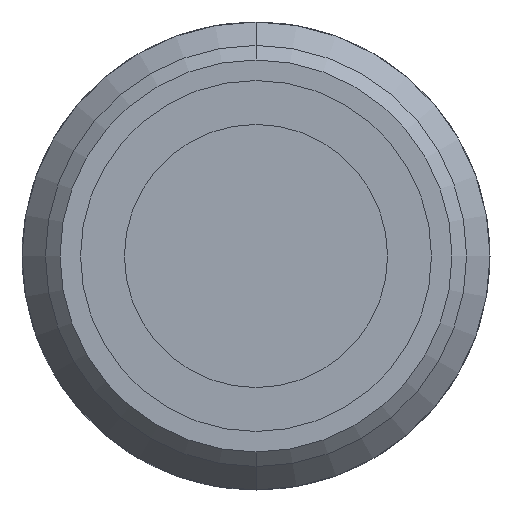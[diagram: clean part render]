
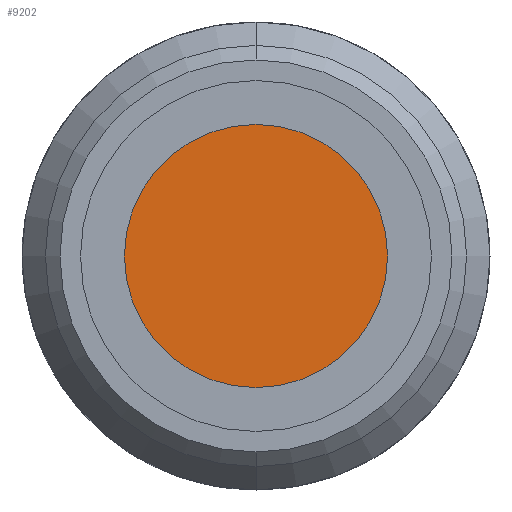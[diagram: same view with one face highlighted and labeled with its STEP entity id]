
A CAD part, front view. The second image highlights one B-rep face of the part: STEP entity #9202.
In plain terms, the highlighted planar face has unit normal (0, -1, 0).
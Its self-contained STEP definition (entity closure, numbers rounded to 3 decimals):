
#137 = EDGE_CURVE ( 'NONE', #7698, #8837, #6682, .T. ) ;
#662 = ORIENTED_EDGE ( 'NONE', *, *, #137, .T. ) ;
#930 = DIRECTION ( 'NONE',  ( 0., 1., 0. ) ) ;
#1772 = DIRECTION ( 'NONE',  ( 0., -1., 0. ) ) ;
#1831 = FACE_OUTER_BOUND ( 'NONE', #8138, .T. ) ;
#2192 = AXIS2_PLACEMENT_3D ( 'NONE', #10731, #930, #7137 ) ;
#2626 = AXIS2_PLACEMENT_3D ( 'NONE', #8084, #2759, #9002 ) ;
#2759 = DIRECTION ( 'NONE',  ( 0., -1., 0. ) ) ;
#3996 = EDGE_CURVE ( 'NONE', #8837, #7698, #7739, .T. ) ;
#4412 = CARTESIAN_POINT ( 'NONE',  ( 0., -3.899, 4.5 ) ) ;
#5284 = PLANE ( 'NONE',  #2192 ) ;
#5932 = AXIS2_PLACEMENT_3D ( 'NONE', #7081, #1772, #7988 ) ;
#6682 = CIRCLE ( 'NONE', #5932, 4.5 ) ;
#7081 = CARTESIAN_POINT ( 'NONE',  ( 0., -3.899, 0. ) ) ;
#7137 = DIRECTION ( 'NONE',  ( 0., 0., 1. ) ) ;
#7698 = VERTEX_POINT ( 'NONE', #4412 ) ;
#7739 = CIRCLE ( 'NONE', #2626, 4.5 ) ;
#7988 = DIRECTION ( 'NONE',  ( 0., 0., -1. ) ) ;
#8084 = CARTESIAN_POINT ( 'NONE',  ( 0., -3.899, 0. ) ) ;
#8138 = EDGE_LOOP ( 'NONE', ( #8913, #662 ) ) ;
#8837 = VERTEX_POINT ( 'NONE', #9857 ) ;
#8913 = ORIENTED_EDGE ( 'NONE', *, *, #3996, .T. ) ;
#9002 = DIRECTION ( 'NONE',  ( 0., 0., -1. ) ) ;
#9202 = ADVANCED_FACE ( 'NONE', ( #1831 ), #5284, .F. ) ;
#9857 = CARTESIAN_POINT ( 'NONE',  ( 0., -3.899, -4.5 ) ) ;
#10731 = CARTESIAN_POINT ( 'NONE',  ( -4.5, -3.899, 0. ) ) ;
